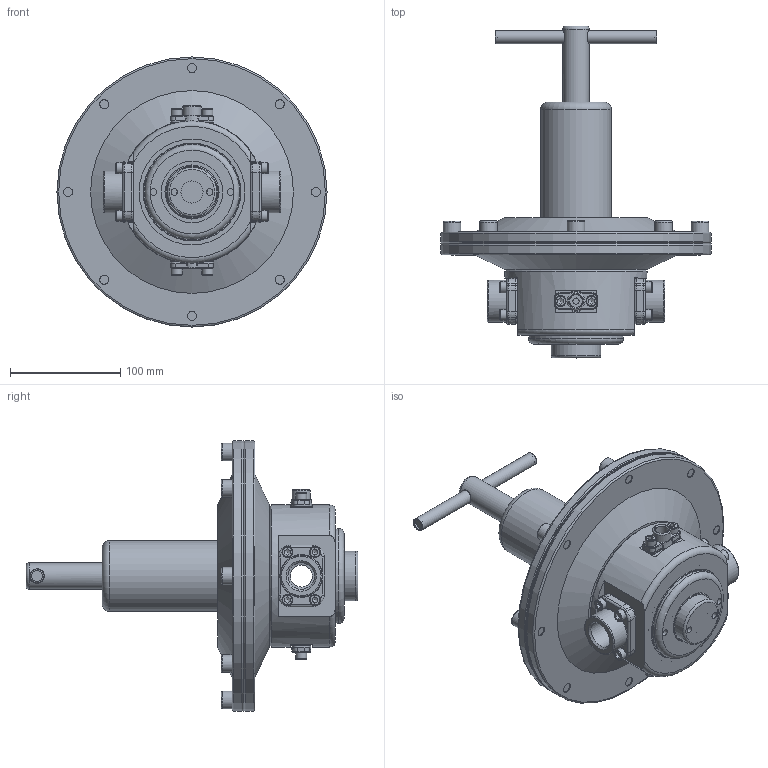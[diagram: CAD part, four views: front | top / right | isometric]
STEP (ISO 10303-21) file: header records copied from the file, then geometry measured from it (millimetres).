
FILE_DESCRIPTION(/* description */ ('Regolatore 310R3'),/* implementation_level */ '2;1');
FILE_NAME(/* name */ 'I:\TEC\Lavoro\ARCHIVIO DISEGNI INVENTOR\WorkSpace\Schizzi\Francesco\1 - AIRCOM MERDA\STEP PER aircomerda\310R3# 34 - 1.2bar.stp',/* time_stamp */ '2023-04-19T07:55:18+02:00',/* author */ ('FrancescoLazio'),/* organization */ (''),/* preprocessor_version */ 'ST-DEVELOPER v19',/* originating_system */ 'Autodesk Inventor 2023',/* authorisation */ '');
FILE_SCHEMA (('AUTOMOTIVE_DESIGN { 1 0 10303 214 3 1 1 }'));
Length unit declared in the file: millimetre
Products named in the file (26): C81021; P20697; OR 07021; P37129; P37131; P34186; P23081; P23078; P64035; P64036; P43162; P43162_1; P43162_2; P43162_3; P43162_4; P43162_5; 0DC10612; P37085; 0DC10410; OR 07075; C43013; P43064; 0DE07B; P30012; P31004; P34199
Assembly tree (46 placements, depth 3):
  C81021
    P20697
    OR 07021  x2
    0DC10410  x12
    P37129
    P37131
    P34186
    P23081
    P23078
    P64035
    P64036
    P43162
    P43162_1
    P43162_2
    P43162_3
    P43162_4
    P43162_5
    0DC10612  x8
    P37085  x2
    OR 07075  x2
    C43013
      P43064
      0DE07B
      P30012
    P31004
    P34199
Bounding box: 245 x 301.2 x 245 mm (x, y, z)
Volume: 1025201.1 mm3; surface area: 443097.3 mm2
Topology: 45 solids, 45 shells, 860 faces, 2105 edges, 1350 vertices
Faces by surface type: plane 291, cylinder 227, torus 149, cone 138, bspline 54, sphere 1
Full cylindrical faces by diameter (mm): 4.917 x12, 5.6 x1, 6 x16, 6.5 x14, 7.7 x2, 8.376 x14, 8.566 x1, 10 x28, 10.5 x24, 11.2 x2, 11.445 x1, 12 x1, 12.2 x1, 16 x8, 16.5 x1, 20 x1, 22 x1, 24 x2, 24.117 x2, 25 x1, 34.6 x2, 38 x2, 38.5 x2, 45 x1, 48.5 x1, 60 x1, 60.63 x1, 62.5 x1, 64 x1, 64.5 x2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
Entity records: 19957 total; most frequent: CARTESIAN_POINT 6130, DIRECTION 2852, ORIENTED_EDGE 2510, EDGE_CURVE 1255, AXIS2_PLACEMENT_3D 1241, VERTEX_POINT 808, CIRCLE 671, EDGE_LOOP 669
